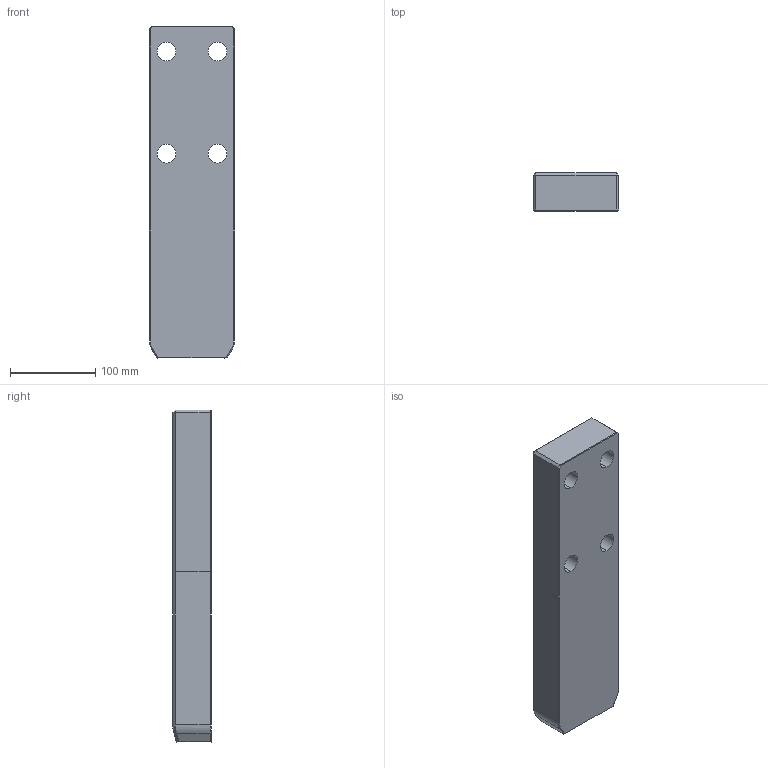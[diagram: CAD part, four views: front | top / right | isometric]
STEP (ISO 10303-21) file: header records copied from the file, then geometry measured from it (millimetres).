
FILE_DESCRIPTION((''),'2;1');
FILE_NAME('','2010-09-08T12:54:20+09:00',('misumi'),(''),'M/STEP i/f 1R2-14','CADmeister v5.1','');
FILE_SCHEMA(('AUTOMOTIVE_DESIGN'));
Length unit declared in the file: millimetre
Products named in the file (1): OGP100-390
Bounding box: 100 x 45 x 390 mm (x, y, z)
Volume: 1669630.2 mm3; surface area: 129162.8 mm2
Topology: 1 solids, 1 shells, 53 faces, 128 edges, 78 vertices
Faces by surface type: plane 32, cylinder 13, bspline 6, cone 2
Entity records: 1903 total; most frequent: CARTESIAN_POINT 598, ORIENTED_EDGE 248, DIRECTION 234, EDGE_CURVE 124, LINE 82, VECTOR 82, AXIS2_PLACEMENT_3D 76, VERTEX_POINT 74
